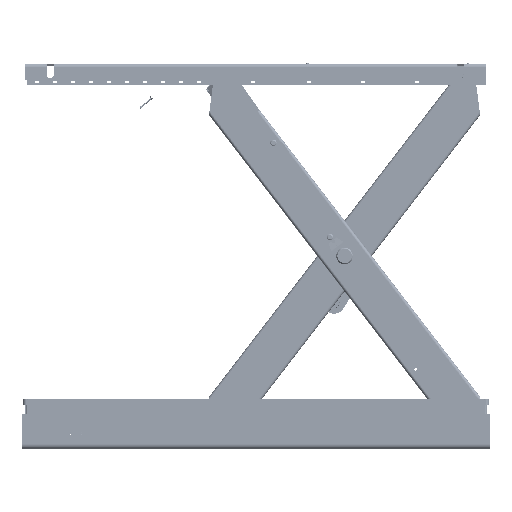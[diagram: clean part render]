
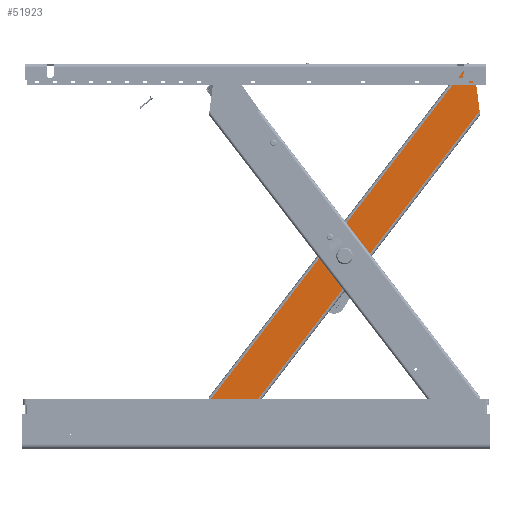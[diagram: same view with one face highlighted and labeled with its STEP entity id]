
A CAD part, front view. The second image highlights one B-rep face of the part: STEP entity #51923.
In plain terms, the highlighted planar face has unit normal (0, -1, 0) as drawn and (1, 0, 0) by its records, which use the part's own axes.
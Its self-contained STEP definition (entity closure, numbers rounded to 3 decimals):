
#1281=FACE_BOUND('',#18347,.T.);
#1282=FACE_BOUND('',#18348,.T.);
#1283=FACE_BOUND('',#18349,.T.);
#2715=PLANE('',#55865);
#5626=LINE('',#80116,#10193);
#5630=LINE('',#80132,#10197);
#5645=LINE('',#80179,#10212);
#5654=LINE('',#80204,#10221);
#5657=LINE('',#80210,#10224);
#5663=LINE('',#80220,#10230);
#5666=LINE('',#80225,#10233);
#5667=LINE('',#80226,#10234);
#10193=VECTOR('',#64407,50.);
#10197=VECTOR('',#64423,94.752);
#10212=VECTOR('',#64460,50.);
#10221=VECTOR('',#64477,94.752);
#10224=VECTOR('',#64484,1113.);
#10230=VECTOR('',#64498,37.);
#10233=VECTOR('',#64505,1113.);
#10234=VECTOR('',#64506,37.);
#15193=FACE_OUTER_BOUND('',#18346,.T.);
#18346=EDGE_LOOP('',(#40589,#40590,#40591,#40592,#40593,#40594,#40595,#40596));
#18347=EDGE_LOOP('',(#40597));
#18348=EDGE_LOOP('',(#40598));
#18349=EDGE_LOOP('',(#40599));
#21619=CIRCLE('',#55866,30.);
#21620=CIRCLE('',#55867,7.1);
#21621=CIRCLE('',#55868,7.1);
#24714=VERTEX_POINT('',#80113);
#24715=VERTEX_POINT('',#80115);
#24720=VERTEX_POINT('',#80130);
#24721=VERTEX_POINT('',#80131);
#24735=VERTEX_POINT('',#80160);
#24742=VERTEX_POINT('',#80178);
#24753=VERTEX_POINT('',#80201);
#24754=VERTEX_POINT('',#80203);
#24756=VERTEX_POINT('',#80227);
#24757=VERTEX_POINT('',#80229);
#24758=VERTEX_POINT('',#80231);
#30519=EDGE_CURVE('',#24715,#24714,#5626,.T.);
#30527=EDGE_CURVE('',#24720,#24721,#5630,.T.);
#30550=EDGE_CURVE('',#24735,#24742,#5645,.T.);
#30562=EDGE_CURVE('',#24754,#24753,#5654,.T.);
#30566=EDGE_CURVE('',#24714,#24720,#5657,.T.);
#30572=EDGE_CURVE('',#24721,#24742,#5663,.T.);
#30575=EDGE_CURVE('',#24754,#24735,#5666,.T.);
#30576=EDGE_CURVE('',#24715,#24753,#5667,.T.);
#30577=EDGE_CURVE('',#24756,#24756,#21619,.T.);
#30578=EDGE_CURVE('',#24757,#24757,#21620,.T.);
#30579=EDGE_CURVE('',#24758,#24758,#21621,.T.);
#40589=ORIENTED_EDGE('',*,*,#30527,.T.);
#40590=ORIENTED_EDGE('',*,*,#30572,.T.);
#40591=ORIENTED_EDGE('',*,*,#30550,.F.);
#40592=ORIENTED_EDGE('',*,*,#30575,.F.);
#40593=ORIENTED_EDGE('',*,*,#30562,.T.);
#40594=ORIENTED_EDGE('',*,*,#30576,.F.);
#40595=ORIENTED_EDGE('',*,*,#30519,.T.);
#40596=ORIENTED_EDGE('',*,*,#30566,.T.);
#40597=ORIENTED_EDGE('',*,*,#30577,.T.);
#40598=ORIENTED_EDGE('',*,*,#30578,.T.);
#40599=ORIENTED_EDGE('',*,*,#30579,.T.);
#51923=ADVANCED_FACE('',(#15193,#1281,#1282,#1283),#2715,.T.);
#55865=AXIS2_PLACEMENT_3D('',#80224,#64503,#64504);
#55866=AXIS2_PLACEMENT_3D('',#80228,#64507,#64508);
#55867=AXIS2_PLACEMENT_3D('',#80230,#64509,#64510);
#55868=AXIS2_PLACEMENT_3D('',#80232,#64511,#64512);
#64407=DIRECTION('',(0.,0.,1.));
#64423=DIRECTION('',(0.,-0.707,0.707));
#64460=DIRECTION('',(0.,0.,1.));
#64477=DIRECTION('',(0.,0.707,-0.707));
#64484=DIRECTION('',(0.,0.,1.));
#64498=DIRECTION('',(0.,-1.,0.));
#64503=DIRECTION('center_axis',(1.,0.,0.));
#64504=DIRECTION('ref_axis',(0.,0.,-1.));
#64505=DIRECTION('',(0.,0.,1.));
#64506=DIRECTION('',(0.,-1.,0.));
#64507=DIRECTION('center_axis',(-1.,0.,0.));
#64508=DIRECTION('ref_axis',(0.,0.,1.));
#64509=DIRECTION('center_axis',(-1.,0.,0.));
#64510=DIRECTION('ref_axis',(0.,0.,1.));
#64511=DIRECTION('center_axis',(-1.,0.,0.));
#64512=DIRECTION('ref_axis',(0.,0.,1.));
#80113=CARTESIAN_POINT('',(30.,52.,50.));
#80115=CARTESIAN_POINT('',(30.,52.,0.));
#80116=CARTESIAN_POINT('',(30.,52.,0.));
#80130=CARTESIAN_POINT('',(30.,52.,1163.));
#80131=CARTESIAN_POINT('',(30.,-15.,1230.));
#80132=CARTESIAN_POINT('',(30.,309.25,905.75));
#80160=CARTESIAN_POINT('',(30.,-52.,1180.));
#80178=CARTESIAN_POINT('',(30.,-52.,1230.));
#80179=CARTESIAN_POINT('',(30.,-52.,0.));
#80201=CARTESIAN_POINT('',(30.,15.,0.));
#80203=CARTESIAN_POINT('',(30.,-52.,67.));
#80204=CARTESIAN_POINT('',(30.,24.25,-9.25));
#80210=CARTESIAN_POINT('',(30.,52.,0.));
#80220=CARTESIAN_POINT('',(30.,26.,1230.));
#80224=CARTESIAN_POINT('Origin',(30.,52.,0.));
#80225=CARTESIAN_POINT('',(30.,-52.,0.));
#80226=CARTESIAN_POINT('',(30.,26.,0.));
#80227=CARTESIAN_POINT('',(30.,0.,585.));
#80228=CARTESIAN_POINT('Origin',(30.,0.,615.));
#80229=CARTESIAN_POINT('',(30.,35.,7.9));
#80230=CARTESIAN_POINT('Origin',(30.,35.,15.));
#80231=CARTESIAN_POINT('',(30.,-35.,1207.9));
#80232=CARTESIAN_POINT('Origin',(30.,-35.,1215.));
